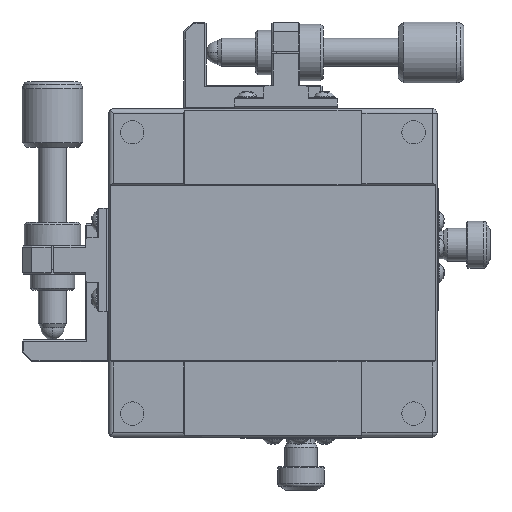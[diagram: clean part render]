
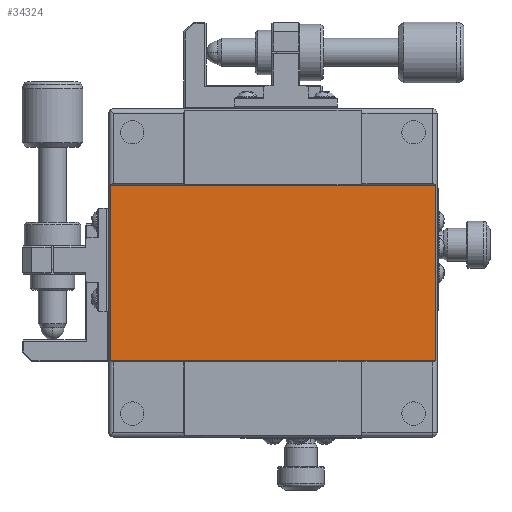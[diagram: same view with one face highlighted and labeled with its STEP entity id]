
A CAD part, front view. The second image highlights one B-rep face of the part: STEP entity #34324.
In plain terms, the highlighted planar face has unit normal (0, -1, 0).
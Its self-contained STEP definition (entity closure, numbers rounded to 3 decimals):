
#1643 = CARTESIAN_POINT ( 'NONE',  ( 30.842, -5.708, 18.7 ) ) ;
#4377 = VERTEX_POINT ( 'NONE', #1643 ) ;
#7216 = EDGE_CURVE ( 'NONE', #10299, #4377, #20656, .T. ) ;
#7307 = FACE_OUTER_BOUND ( 'NONE', #57760, .T. ) ;
#10299 = VERTEX_POINT ( 'NONE', #50330 ) ;
#14264 = CARTESIAN_POINT ( 'NONE',  ( 31.128, -5.708, 18.7 ) ) ;
#14477 = DIRECTION ( 'NONE',  ( 0., 0., 1. ) ) ;
#14896 = ORIENTED_EDGE ( 'NONE', *, *, #56119, .F. ) ;
#15394 = LINE ( 'NONE', #53781, #53190 ) ;
#16771 = EDGE_CURVE ( 'NONE', #4377, #65161, #49597, .T. ) ;
#18347 = CARTESIAN_POINT ( 'NONE',  ( 30.842, -5.708, -18.7 ) ) ;
#20656 = LINE ( 'NONE', #18347, #60106 ) ;
#22223 = VECTOR ( 'NONE', #27538, 1000. ) ;
#23910 = VERTEX_POINT ( 'NONE', #38446 ) ;
#26032 = DIRECTION ( 'NONE',  ( 0., 0., -1. ) ) ;
#27538 = DIRECTION ( 'NONE',  ( -1., 0., 0. ) ) ;
#34324 = ADVANCED_FACE ( 'NONE', ( #7307 ), #40126, .F. ) ;
#36093 = VECTOR ( 'NONE', #26032, 1000. ) ;
#38446 = CARTESIAN_POINT ( 'NONE',  ( -38.586, -5.708, -18.7 ) ) ;
#40126 = PLANE ( 'NONE',  #44266 ) ;
#44266 = AXIS2_PLACEMENT_3D ( 'NONE', #14264, #45298, #14477 ) ;
#45298 = DIRECTION ( 'NONE',  ( 0., 1., 0. ) ) ;
#46941 = ORIENTED_EDGE ( 'NONE', *, *, #7216, .T. ) ;
#49597 = LINE ( 'NONE', #58379, #22223 ) ;
#50330 = CARTESIAN_POINT ( 'NONE',  ( 30.842, -5.708, -18.7 ) ) ;
#50924 = ORIENTED_EDGE ( 'NONE', *, *, #57791, .T. ) ;
#51376 = LINE ( 'NONE', #51930, #36093 ) ;
#51930 = CARTESIAN_POINT ( 'NONE',  ( -38.586, -5.708, 18.7 ) ) ;
#53190 = VECTOR ( 'NONE', #58948, 1000. ) ;
#53781 = CARTESIAN_POINT ( 'NONE',  ( 31.128, -5.708, -18.7 ) ) ;
#54306 = DIRECTION ( 'NONE',  ( 0., 0., 1. ) ) ;
#56119 = EDGE_CURVE ( 'NONE', #10299, #23910, #15394, .T. ) ;
#57760 = EDGE_LOOP ( 'NONE', ( #14896, #46941, #64212, #50924 ) ) ;
#57791 = EDGE_CURVE ( 'NONE', #65161, #23910, #51376, .T. ) ;
#58379 = CARTESIAN_POINT ( 'NONE',  ( 31.128, -5.708, 18.7 ) ) ;
#58948 = DIRECTION ( 'NONE',  ( -1., 0., 0. ) ) ;
#60106 = VECTOR ( 'NONE', #54306, 1000. ) ;
#64212 = ORIENTED_EDGE ( 'NONE', *, *, #16771, .T. ) ;
#65161 = VERTEX_POINT ( 'NONE', #66230 ) ;
#66230 = CARTESIAN_POINT ( 'NONE',  ( -38.586, -5.708, 18.7 ) ) ;
